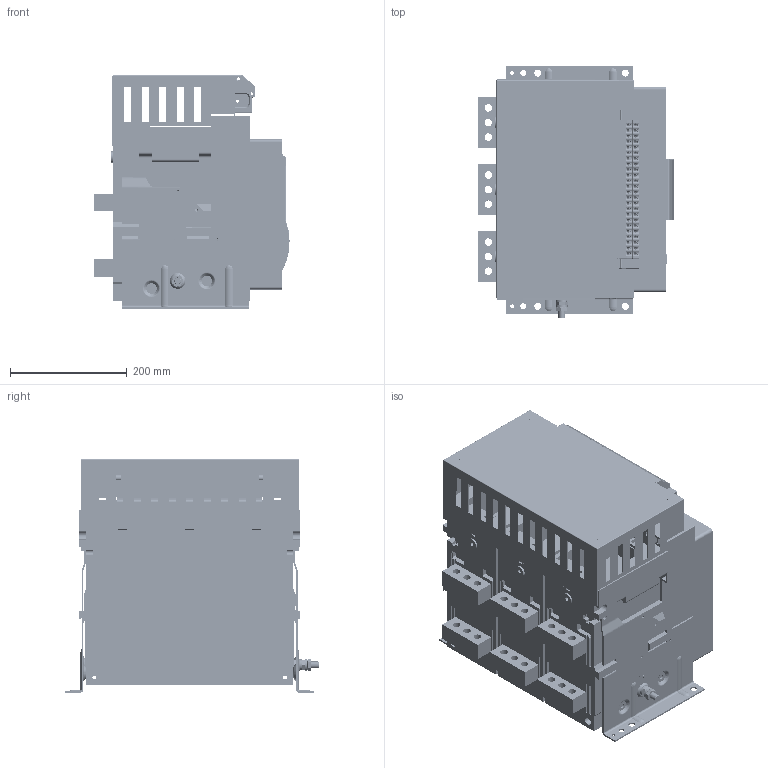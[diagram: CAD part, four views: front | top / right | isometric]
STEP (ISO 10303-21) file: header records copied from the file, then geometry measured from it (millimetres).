
FILE_DESCRIPTION (( 'STEP AP203' ), '1' );
FILE_NAME ('3200 F 3P PD.24.03.01.STEP', '2024-06-17T13:56:47', ( '' ), ( '' ), 'SwSTEP 2.0', 'SolidWorks 2022', '' );
FILE_SCHEMA (( 'CONFIG_CONTROL_DESIGN' ));
Length unit declared in the file: millimetre
Products named in the file (15): 3200 罩壳 3P.stp; 3200-4000-外壳_x_t.stp; 3200-4000-外壳_id31_x_t.stp; 3200-3P底板_x_t.stp; 48 固定式端子.stp; 左固定板.stp; 3200-4000-外壳_id26_x_t.stp; 3200-3P基座.stp; 3200-4000-外壳_id6_x_t.stp; 3200 F 3P PD.24.03.01; 3200-4000-外壳_id11_x_t.stp; 3200-4000-外壳_id16_x_t.stp; 右固定板.stp; 3200-4000-外壳_id21_x_t.stp; 3200 F 3P.stp
Assembly tree (14 placements, depth 4):
  3200 F 3P PD.24.03.01
    3200 F 3P.stp
      3200-4000-外壳_x_t.stp
        3200-4000-外壳_id6_x_t.stp
        3200-4000-外壳_id11_x_t.stp
        3200-4000-外壳_id16_x_t.stp
        3200-4000-外壳_id21_x_t.stp
        3200-4000-外壳_id26_x_t.stp
        3200-4000-外壳_id31_x_t.stp
      3200-3P基座.stp
      3200-3P底板_x_t.stp
      48 固定式端子.stp
      3200 罩壳 3P.stp
      右固定板.stp
      左固定板.stp
Bounding box: 334.78 x 434 x 401 mm (x, y, z)
Volume: 16900043.4 mm3; surface area: 2394679.8 mm2
Topology: 76 solids, 77 shells, 10736 faces, 31163 edges, 20540 vertices
Faces by surface type: plane 7721, cylinder 2381, torus 379, cone 163, bspline 61, sphere 31
Entity records: 363871 total; most frequent: CARTESIAN_POINT 76475, ORIENTED_EDGE 62290, DIRECTION 56623, EDGE_CURVE 31145, LINE 23811, VECTOR 23811, VERTEX_POINT 20537, AXIS2_PLACEMENT_3D 16406
